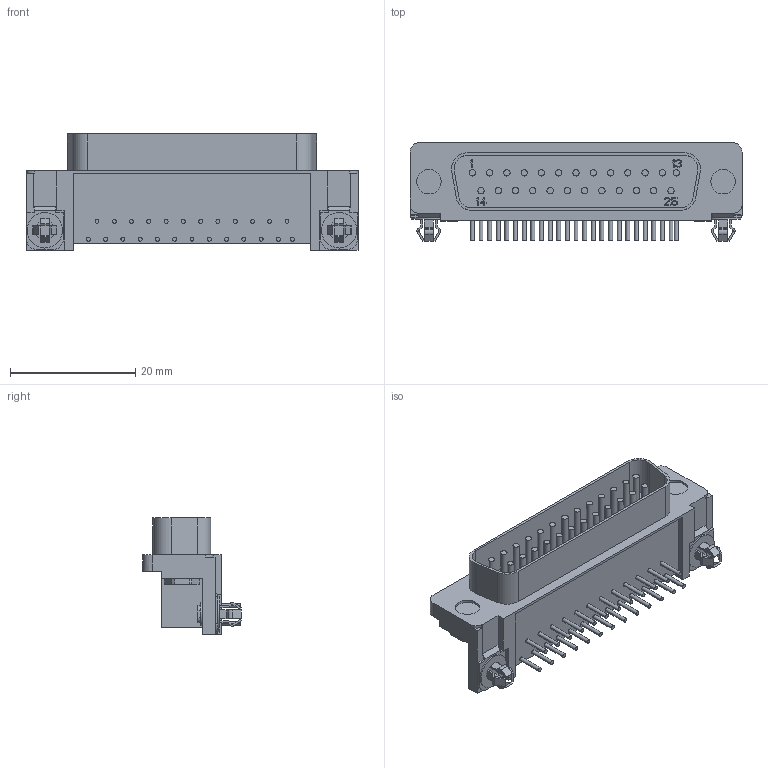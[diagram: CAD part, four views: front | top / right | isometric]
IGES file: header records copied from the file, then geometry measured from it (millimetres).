
Start section:  PTC IGES file: c-6-747842-8-w-3d.igs
Global section: file name: c-6-747842-8-w-3d.igs; native system: Pro/ENGINEER by Parametric Technology Corporation; preprocessor: 2010430; author: workeradm; organization: Unknown; units: millimetre
Bounding box: 53.09 x 15.81 x 18.6 mm (x, y, z)
Surface area: 4894.2 mm2 (no closed solid volume)
Topology: 0 solids, 0 shells, 622 faces, 3200 edges, 3200 vertices
Faces by surface type: bspline 422, revolution 200
